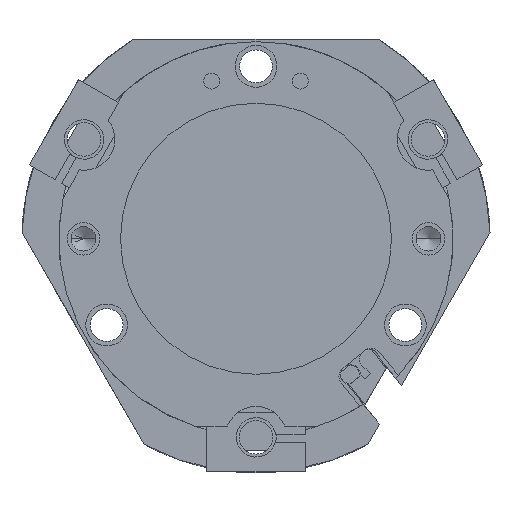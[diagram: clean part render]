
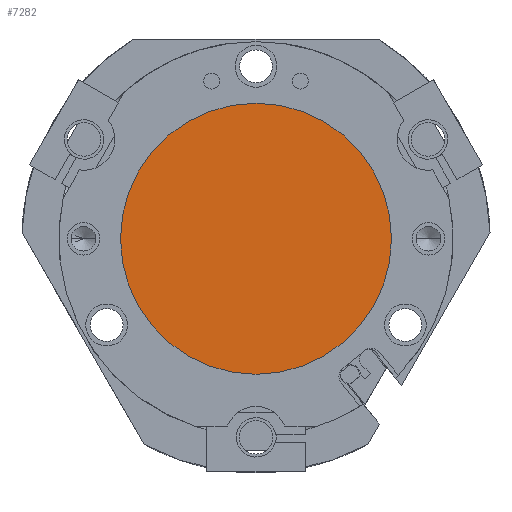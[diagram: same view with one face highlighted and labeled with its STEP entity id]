
A CAD part, front view. The second image highlights one B-rep face of the part: STEP entity #7282.
In plain terms, the highlighted planar face has unit normal (0, -1, 0) as drawn and (0, 1, 0) by its records, which use the part's own axes.
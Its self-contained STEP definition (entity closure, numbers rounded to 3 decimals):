
#316 = FACE_OUTER_BOUND ( 'NONE', #2657, .T. ) ;
#557 = VERTEX_POINT ( 'NONE', #10006 ) ;
#2636 = PLANE ( 'NONE',  #9356 ) ;
#2657 = EDGE_LOOP ( 'NONE', ( #4532, #13886 ) ) ;
#2899 = EDGE_CURVE ( 'NONE', #557, #9183, #6853, .T. ) ;
#3756 = DIRECTION ( 'NONE',  ( 0., 0., 1. ) ) ;
#4241 = DIRECTION ( 'NONE',  ( 0., 1., 0. ) ) ;
#4532 = ORIENTED_EDGE ( 'NONE', *, *, #5666, .T. ) ;
#4872 = DIRECTION ( 'NONE',  ( 0., 1., 0. ) ) ;
#5321 = CIRCLE ( 'NONE', #7604, 27.5 ) ;
#5666 = EDGE_CURVE ( 'NONE', #9183, #557, #5321, .T. ) ;
#6853 = CIRCLE ( 'NONE', #13736, 27.5 ) ;
#7282 = ADVANCED_FACE ( 'NONE', ( #316 ), #2636, .T. ) ;
#7604 = AXIS2_PLACEMENT_3D ( 'NONE', #10758, #4241, #11844 ) ;
#9140 = CARTESIAN_POINT ( 'NONE',  ( 0., 5., 0. ) ) ;
#9183 = VERTEX_POINT ( 'NONE', #12630 ) ;
#9356 = AXIS2_PLACEMENT_3D ( 'NONE', #9140, #10248, #3756 ) ;
#10006 = CARTESIAN_POINT ( 'NONE',  ( 0., 5., 27.5 ) ) ;
#10248 = DIRECTION ( 'NONE',  ( 0., 1., 0. ) ) ;
#10758 = CARTESIAN_POINT ( 'NONE',  ( 0., 5., 0. ) ) ;
#11416 = CARTESIAN_POINT ( 'NONE',  ( 0., 5., 0. ) ) ;
#11844 = DIRECTION ( 'NONE',  ( 0., 0., -1. ) ) ;
#12490 = DIRECTION ( 'NONE',  ( 0., 0., -1. ) ) ;
#12630 = CARTESIAN_POINT ( 'NONE',  ( 0., 5., -27.5 ) ) ;
#13736 = AXIS2_PLACEMENT_3D ( 'NONE', #11416, #4872, #12490 ) ;
#13886 = ORIENTED_EDGE ( 'NONE', *, *, #2899, .T. ) ;
